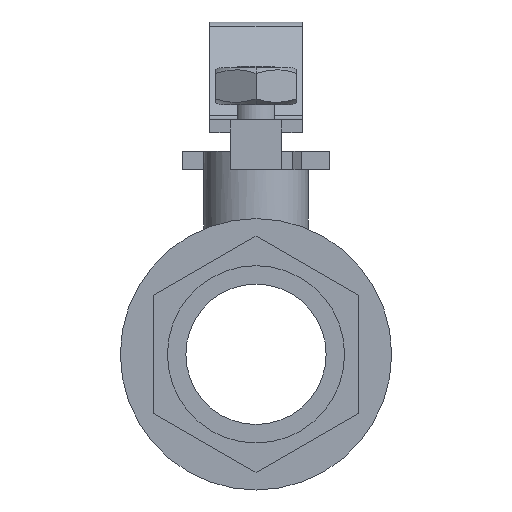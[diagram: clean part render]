
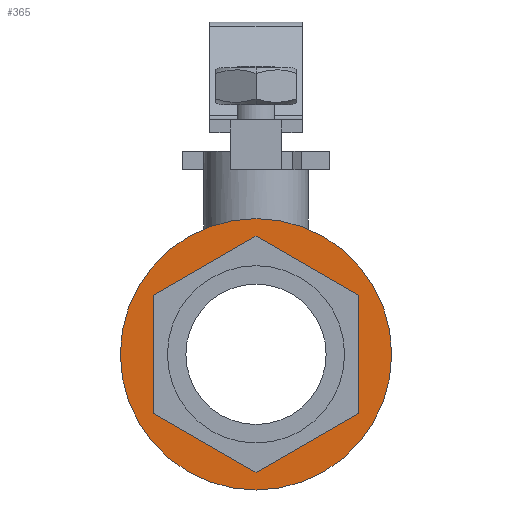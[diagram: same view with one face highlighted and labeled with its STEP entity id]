
A CAD part, left-side view. The second image highlights one B-rep face of the part: STEP entity #365.
In plain terms, the highlighted planar face has unit normal (-1, 0, 0).
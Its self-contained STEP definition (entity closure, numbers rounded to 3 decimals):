
#365=ADVANCED_FACE('',(#784,#785),#786,.F.);
#784=FACE_OUTER_BOUND('',#1251,.T.);
#785=FACE_BOUND('',#1252,.T.);
#786=PLANE('',#1253);
#1251=EDGE_LOOP('',(#2286,#2287));
#1252=EDGE_LOOP('',(#2288,#2289,#2290,#2291,#2292,#2293));
#1253=AXIS2_PLACEMENT_3D('',#2294,#2295,#2296);
#2286=ORIENTED_EDGE('',*,*,#2940,.F.);
#2287=ORIENTED_EDGE('',*,*,#3074,.F.);
#2288=ORIENTED_EDGE('',*,*,#3106,.F.);
#2289=ORIENTED_EDGE('',*,*,#3107,.F.);
#2290=ORIENTED_EDGE('',*,*,#3108,.F.);
#2291=ORIENTED_EDGE('',*,*,#3109,.F.);
#2292=ORIENTED_EDGE('',*,*,#3110,.F.);
#2293=ORIENTED_EDGE('',*,*,#3111,.F.);
#2294=CARTESIAN_POINT('',(-33.0,-36.75,0.));
#2295=DIRECTION('',(1.0,0.0,0.));
#2296=DIRECTION('',(0.,1.0,0.));
#2940=EDGE_CURVE('',#3565,#3561,#3567,.T.);
#3074=EDGE_CURVE('',#3561,#3565,#3777,.T.);
#3106=EDGE_CURVE('',#3822,#3823,#3824,.T.);
#3107=EDGE_CURVE('',#3825,#3822,#3826,.T.);
#3108=EDGE_CURVE('',#3827,#3825,#3828,.T.);
#3109=EDGE_CURVE('',#3829,#3827,#3830,.T.);
#3110=EDGE_CURVE('',#3831,#3829,#3832,.T.);
#3111=EDGE_CURVE('',#3823,#3831,#3833,.T.);
#3561=VERTEX_POINT('',#4552);
#3565=VERTEX_POINT('',#4557);
#3567=CIRCLE('',#4560,36.75);
#3777=CIRCLE('',#4867,36.75);
#3822=VERTEX_POINT('',#4925);
#3823=VERTEX_POINT('',#4926);
#3824=LINE('',#4927,#4928);
#3825=VERTEX_POINT('',#4929);
#3826=LINE('',#4930,#4931);
#3827=VERTEX_POINT('',#4932);
#3828=LINE('',#4933,#4934);
#3829=VERTEX_POINT('',#4935);
#3830=LINE('',#4936,#4937);
#3831=VERTEX_POINT('',#4938);
#3832=LINE('',#4939,#4940);
#3833=LINE('',#4941,#4942);
#4552=CARTESIAN_POINT('',(-33.0,-36.75,0.));
#4557=CARTESIAN_POINT('',(-33.0,36.75,0.));
#4560=AXIS2_PLACEMENT_3D('',#5392,#5393,#5394);
#4867=AXIS2_PLACEMENT_3D('',#5611,#5612,#5613);
#4925=CARTESIAN_POINT('',(-33.0,0.0,-32.0));
#4926=CARTESIAN_POINT('',(-33.0,-27.713,-16.0));
#4927=CARTESIAN_POINT('',(-33.0,-27.638,-16.043));
#4928=VECTOR('',#5657,1.0);
#4929=CARTESIAN_POINT('',(-33.0,27.713,-16.0));
#4930=CARTESIAN_POINT('',(-33.0,0.075,-31.957));
#4931=VECTOR('',#5658,1.0);
#4932=CARTESIAN_POINT('',(-33.0,27.713,16.0));
#4933=CARTESIAN_POINT('',(-33.0,27.713,0.));
#4934=VECTOR('',#5659,1.0);
#4935=CARTESIAN_POINT('',(-33.0,0.,32.0));
#4936=CARTESIAN_POINT('',(-33.0,0.075,31.957));
#4937=VECTOR('',#5660,1.0);
#4938=CARTESIAN_POINT('',(-33.0,-27.713,16.0));
#4939=CARTESIAN_POINT('',(-33.0,-27.638,16.043));
#4940=VECTOR('',#5661,1.0);
#4941=CARTESIAN_POINT('',(-33.0,-27.713,0.));
#4942=VECTOR('',#5662,1.0);
#5392=CARTESIAN_POINT('',(-33.0,0.0,0.));
#5393=DIRECTION('',(1.0,0.,0.));
#5394=DIRECTION('',(0.,-1.0,0.));
#5611=CARTESIAN_POINT('',(-33.0,0.0,0.));
#5612=DIRECTION('',(1.0,0.,0.));
#5613=DIRECTION('',(0.,-1.0,0.));
#5657=DIRECTION('',(0.,-0.866,0.5));
#5658=DIRECTION('',(0.,-0.866,-0.5));
#5659=DIRECTION('',(0.,0.,-1.0));
#5660=DIRECTION('',(0.,0.866,-0.5));
#5661=DIRECTION('',(0.,0.866,0.5));
#5662=DIRECTION('',(0.,0.,1.0));
